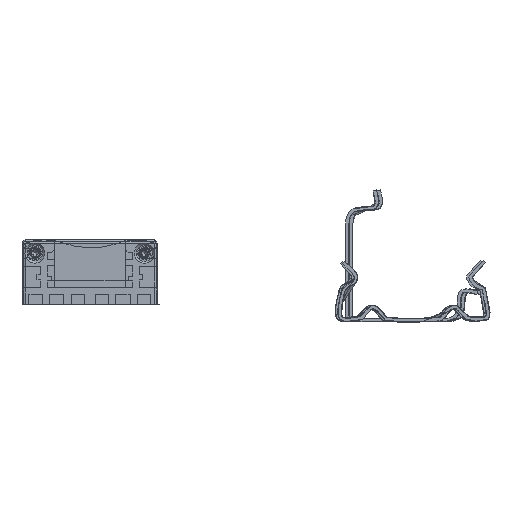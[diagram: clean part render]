
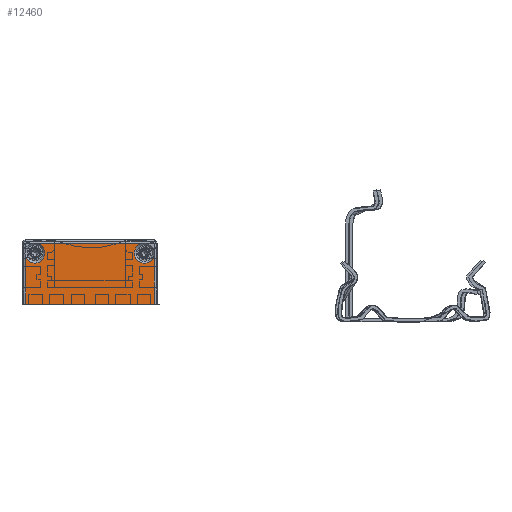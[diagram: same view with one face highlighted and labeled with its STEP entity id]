
A CAD part, left-side view. The second image highlights one B-rep face of the part: STEP entity #12460.
In plain terms, the highlighted planar face has unit normal (-1, 0, 0).
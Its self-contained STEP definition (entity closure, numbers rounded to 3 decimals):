
#197=CIRCLE('',#13328,1.5);
#202=CIRCLE('',#13335,1.5);
#204=CIRCLE('',#13337,1.5);
#549=PLANE('',#13374);
#1135=FACE_OUTER_BOUND('',#1909,.T.);
#1909=EDGE_LOOP('',(#8867,#8868,#8869,#8870,#8871,#8872,#8873));
#2689=LINE('',#19825,#4015);
#2690=LINE('',#19828,#4016);
#2708=LINE('',#19892,#4034);
#2709=LINE('',#19895,#4035);
#4015=VECTOR('',#14335,10.);
#4016=VECTOR('',#14338,10.);
#4034=VECTOR('',#14414,10.);
#4035=VECTOR('',#14419,10.);
#5617=VERTEX_POINT('',#19756);
#5619=VERTEX_POINT('',#19764);
#5625=VERTEX_POINT('',#19790);
#5627=VERTEX_POINT('',#19799);
#5628=VERTEX_POINT('',#19806);
#5634=VERTEX_POINT('',#19823);
#5635=VERTEX_POINT('',#19827);
#6860=EDGE_CURVE('',#5619,#5617,#197,.T.);
#6871=EDGE_CURVE('',#5628,#5627,#202,.T.);
#6874=EDGE_CURVE('',#5625,#5628,#204,.T.);
#6881=EDGE_CURVE('',#5634,#5617,#2689,.T.);
#6882=EDGE_CURVE('',#5625,#5635,#2690,.T.);
#6915=EDGE_CURVE('',#5619,#5627,#2708,.T.);
#6917=EDGE_CURVE('',#5634,#5635,#2709,.T.);
#8867=ORIENTED_EDGE('',*,*,#6860,.T.);
#8868=ORIENTED_EDGE('',*,*,#6881,.F.);
#8869=ORIENTED_EDGE('',*,*,#6917,.T.);
#8870=ORIENTED_EDGE('',*,*,#6882,.F.);
#8871=ORIENTED_EDGE('',*,*,#6874,.T.);
#8872=ORIENTED_EDGE('',*,*,#6871,.T.);
#8873=ORIENTED_EDGE('',*,*,#6915,.F.);
#12460=ADVANCED_FACE('',(#1135),#549,.T.);
#13328=AXIS2_PLACEMENT_3D('',#19765,#14299,#14300);
#13335=AXIS2_PLACEMENT_3D('',#19807,#14315,#14316);
#13337=AXIS2_PLACEMENT_3D('',#19811,#14320,#14321);
#13374=AXIS2_PLACEMENT_3D('',#19894,#14417,#14418);
#14299=DIRECTION('center_axis',(1.,0.,0.));
#14300=DIRECTION('ref_axis',(0.,-1.,0.));
#14315=DIRECTION('center_axis',(1.,0.,0.));
#14316=DIRECTION('ref_axis',(0.,-1.,0.));
#14320=DIRECTION('center_axis',(1.,0.,0.));
#14321=DIRECTION('ref_axis',(0.,-1.,0.));
#14335=DIRECTION('',(0.,0.,1.));
#14338=DIRECTION('',(0.,0.,-1.));
#14414=DIRECTION('',(0.,-1.,0.));
#14417=DIRECTION('center_axis',(-1.,0.,0.));
#14418=DIRECTION('ref_axis',(0.,0.,1.));
#14419=DIRECTION('',(0.,-1.,0.));
#19756=CARTESIAN_POINT('',(-1.5,-4.998,10.527));
#19764=CARTESIAN_POINT('',(-1.5,-6.634,12.623));
#19765=CARTESIAN_POINT('Origin',(-1.5,-6.364,11.148));
#19790=CARTESIAN_POINT('',(-1.5,-24.198,10.766));
#19799=CARTESIAN_POINT('',(-1.5,-22.477,12.623));
#19806=CARTESIAN_POINT('',(-1.5,-21.248,11.148));
#19807=CARTESIAN_POINT('Origin',(-1.5,-22.748,11.148));
#19811=CARTESIAN_POINT('Origin',(-1.5,-22.748,11.148));
#19823=CARTESIAN_POINT('',(-1.5,-4.998,3.523));
#19825=CARTESIAN_POINT('',(-1.5,-4.998,10.723));
#19827=CARTESIAN_POINT('',(-1.5,-24.198,3.523));
#19828=CARTESIAN_POINT('',(-1.5,-24.198,5.923));
#19892=CARTESIAN_POINT('',(-1.5,-19.648,12.623));
#19894=CARTESIAN_POINT('Origin',(-1.5,-14.598,8.323));
#19895=CARTESIAN_POINT('',(-1.5,-4.498,3.523));
